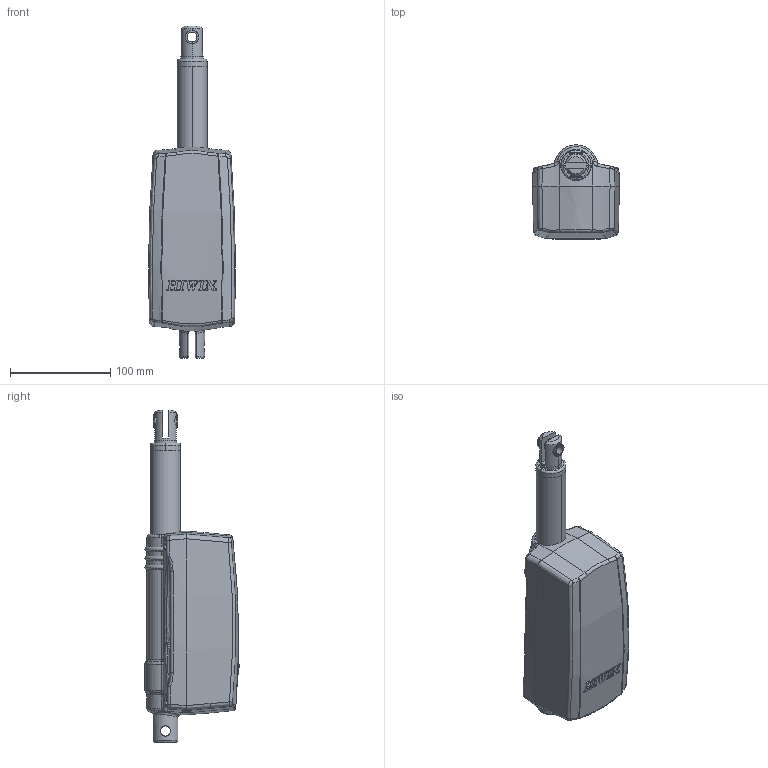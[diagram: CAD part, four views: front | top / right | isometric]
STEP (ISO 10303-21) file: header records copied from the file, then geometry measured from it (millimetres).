
FILE_DESCRIPTION((''),'2;1');
FILE_NAME('LAN4-S100_ASM','2007-07-12T',('amyliao'),(''),'PRO/ENGINEER BY PARAMETRIC TECHNOLOGY CORPORATION, 2003210','PRO/ENGINEER BY PARAMETRIC TECHNOLOGY CORPORATION, 2003210','');
FILE_SCHEMA(('CONFIG_CONTROL_DESIGN'));
Length unit declared in the file: millimetre
Products named in the file (9): COVER02; 04; 03; 01; 02; 05; N4-OUT-TUBE_ASM; COVER01; LAN4-S100_ASM
Assembly tree (9 placements, depth 3):
  LAN4-S100_ASM
    COVER02
    N4-OUT-TUBE_ASM
      04
      03
      01
      02
      05  x2
    COVER01
Bounding box: 86.98 x 94.2 x 332 mm (x, y, z)
Volume: 379407.3 mm3; surface area: 210417.3 mm2
Topology: 8 solids, 8 shells, 623 faces, 1609 edges, 1024 vertices
Faces by surface type: plane 213, cylinder 128, bspline 112, extrusion 92, cone 43, torus 19, sphere 16
Entity records: 25087 total; most frequent: CARTESIAN_POINT 11594, ORIENTED_EDGE 3174, DIRECTION 2073, EDGE_CURVE 1587, VERTEX_POINT 1010, B_SPLINE_CURVE_WITH_KNOTS 872, AXIS2_PLACEMENT_3D 742, EDGE_LOOP 661
